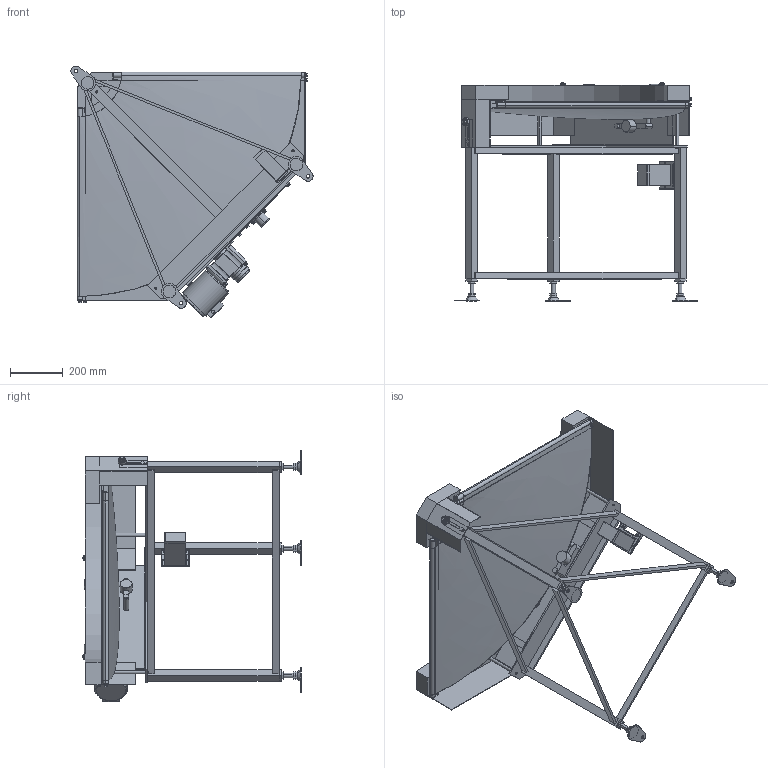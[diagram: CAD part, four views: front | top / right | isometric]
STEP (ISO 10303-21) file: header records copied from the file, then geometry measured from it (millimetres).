
FILE_DESCRIPTION (( 'STEP AP214' ), '1' );
FILE_NAME ('MMBC3-HS-310-600-90°-L-IV-120.STEP', '2023-01-23T01:57:39', ( '' ), ( '' ), 'SwSTEP 2.0', 'SolidWorks 2017', '' );
FILE_SCHEMA (( 'AUTOMOTIVE_DESIGN' ));
Length unit declared in the file: millimetre
Products named in the file (1): MMBC3-HS-310-600-90°-L-IV-120
Bounding box: 917.51 x 827.92 x 954.09 mm (x, y, z)
Volume: 20469796.5 mm3; surface area: 5677265.3 mm2
Topology: 43 solids, 43 shells, 1277 faces, 3063 edges, 1986 vertices
Faces by surface type: plane 738, cylinder 399, cone 63, bspline 55, torus 12, sphere 10
Entity records: 43712 total; most frequent: CARTESIAN_POINT 13188, DIRECTION 6265, ORIENTED_EDGE 6098, EDGE_CURVE 3049, AXIS2_PLACEMENT_3D 2174, VERTEX_POINT 1986, VECTOR 1917, LINE 1917
